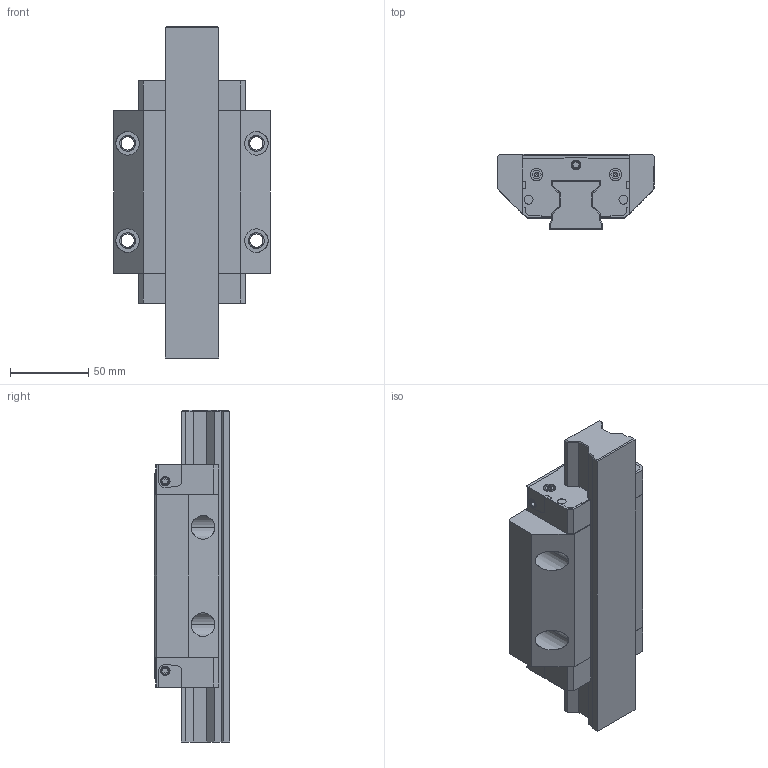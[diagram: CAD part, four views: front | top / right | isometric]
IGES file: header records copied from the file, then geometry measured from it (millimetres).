
Start section: 3D InterOp IGES (v. 2019 1.0.2), Spatial Corp. Copyright (c) 1999-2017.
Global section: file name: R1853_size35.igs; native system: Spatial Corp.; preprocessor: 3D InterOp GENERIC/IGES 3.0; author: Noname; organization: Noname; date: 20220630.112920; units: millimetre
Bounding box: 100 x 47.98 x 211.6 mm (x, y, z)
Surface area: 110378.1 mm2 (no closed solid volume)
Topology: 0 solids, 0 shells, 528 faces, 2732 edges, 2712 vertices
Faces by surface type: extrusion 332, revolution 196
